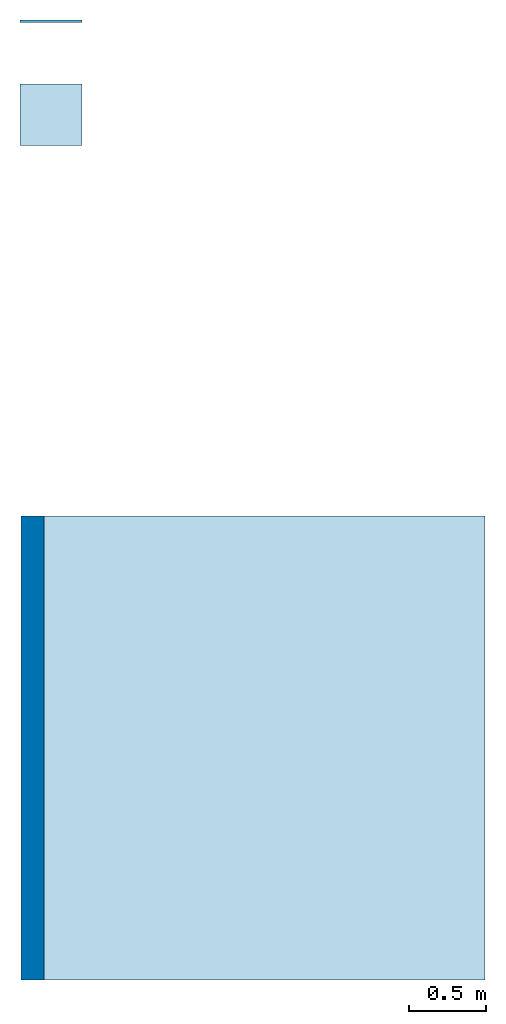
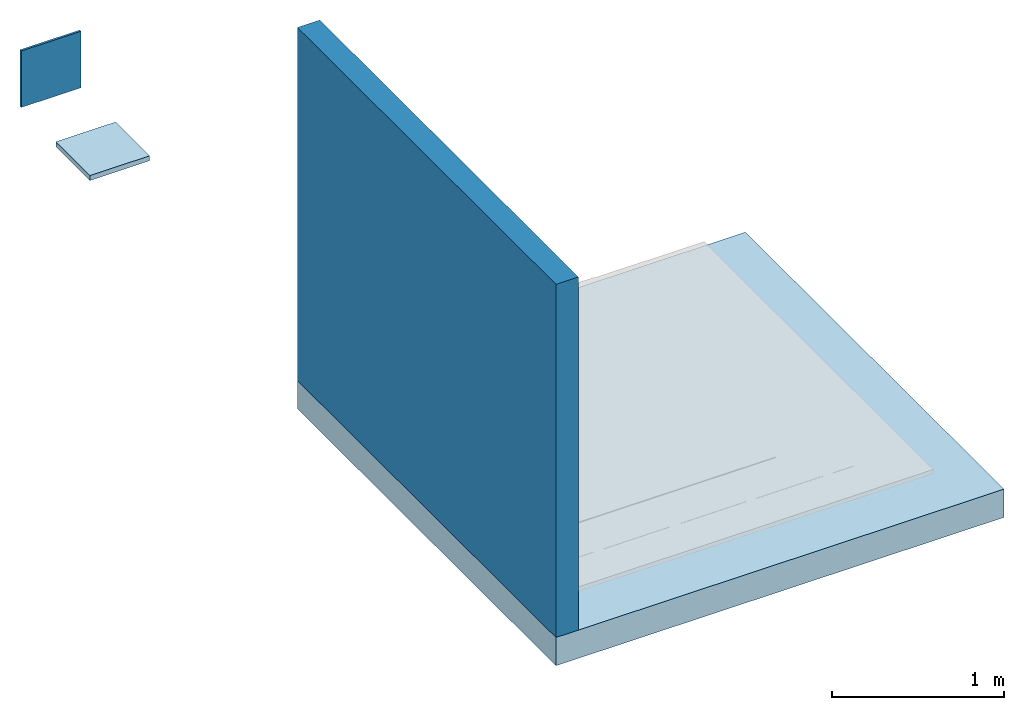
# One storey, part 1 of 2: 2 slabs, 2 walls.
"""IFC2X3 building model written with IfcOpenShell, lengths in metres."""

from ifc_helpers import new_model, entity, si_unit, converted_unit, derived_unit, direction, frame, frame_2d, origin, origin_2d_with_axis, place, context, subcontext, project, spatial, rectangle, extrude, material, layer, layer_set, layer_usage, type_object, element, save


model = new_model("IFC2X3")

# Units and contexts
model_context = context("Model", 3, precision=1e-05, world=origin(), true_north=direction((6.123031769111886e-17, 1.0)))
body_context = subcontext(model_context, "Body", "Model", "MODEL_VIEW")
ifc_project = project(units=[si_unit("LENGTHUNIT", "METRE"), si_unit("AREAUNIT", "SQUARE_METRE"), si_unit("VOLUMEUNIT", "CUBIC_METRE"), converted_unit("PLANEANGLEUNIT", "DEGREE", entity("IfcRatioMeasure", 0.017453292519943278), si_unit("PLANEANGLEUNIT", "RADIAN"), dimensions=[0, 0, 0, 0, 0, 0, 0]), si_unit("MASSUNIT", "GRAM", prefix="KILO"), derived_unit("MASSDENSITYUNIT", [(si_unit("MASSUNIT", "GRAM", prefix="KILO"), 1), (si_unit("LENGTHUNIT", "METRE"), -3)]), derived_unit("IONCONCENTRATIONUNIT", [(si_unit("MASSUNIT", "GRAM", prefix="KILO"), 1), (si_unit("LENGTHUNIT", "METRE"), -3)]), derived_unit("MOMENTOFINERTIAUNIT", [(si_unit("LENGTHUNIT", "METRE"), 4)]), si_unit("TIMEUNIT", "SECOND"), si_unit("FREQUENCYUNIT", "HERTZ"), si_unit("THERMODYNAMICTEMPERATUREUNIT", "DEGREE_CELSIUS"), derived_unit("THERMALTRANSMITTANCEUNIT", [(si_unit("MASSUNIT", "GRAM", prefix="KILO"), 1), (si_unit("THERMODYNAMICTEMPERATUREUNIT", "KELVIN"), -1), (si_unit("TIMEUNIT", "SECOND"), -3)]), derived_unit("THERMALCONDUCTANCEUNIT", [(si_unit("MASSUNIT", "GRAM", prefix="KILO"), 1), (si_unit("THERMODYNAMICTEMPERATUREUNIT", "KELVIN"), -1), (si_unit("TIMEUNIT", "SECOND"), -3), (si_unit("LENGTHUNIT", "METRE"), 1)]), derived_unit("VOLUMETRICFLOWRATEUNIT", [(si_unit("LENGTHUNIT", "METRE"), 3), (si_unit("TIMEUNIT", "SECOND"), -1)]), derived_unit("MASSFLOWRATEUNIT", [(si_unit("MASSUNIT", "GRAM", prefix="KILO"), 1), (si_unit("TIMEUNIT", "SECOND"), -1)]), derived_unit("ROTATIONALFREQUENCYUNIT", [(si_unit("TIMEUNIT", "SECOND"), -1)]), si_unit("ELECTRICCURRENTUNIT", "AMPERE"), si_unit("ELECTRICVOLTAGEUNIT", "VOLT"), si_unit("POWERUNIT", "WATT"), si_unit("FORCEUNIT", "NEWTON", prefix="KILO"), si_unit("ILLUMINANCEUNIT", "LUX"), si_unit("LUMINOUSFLUXUNIT", "LUMEN"), si_unit("LUMINOUSINTENSITYUNIT", "CANDELA"), derived_unit("USERDEFINED", [(si_unit("MASSUNIT", "GRAM", prefix="KILO"), -1), (si_unit("LENGTHUNIT", "METRE"), -2), (si_unit("TIMEUNIT", "SECOND"), 3), (si_unit("LUMINOUSFLUXUNIT", "LUMEN"), 1)]), derived_unit("USERDEFINED", [(si_unit("MASSUNIT", "GRAM", prefix="KILO"), 1), (si_unit("TIMEUNIT", "SECOND"), -3), (si_unit("LENGTHUNIT", "METRE"), 3), (si_unit("ELECTRICCURRENTUNIT", "AMPERE"), -2)]), derived_unit("SOUNDPOWERUNIT", [(si_unit("MASSUNIT", "GRAM", prefix="KILO"), 1), (si_unit("TIMEUNIT", "SECOND"), -3), (si_unit("LENGTHUNIT", "METRE"), 2)]), derived_unit("SOUNDPRESSUREUNIT", [(si_unit("MASSUNIT", "GRAM", prefix="KILO"), 1), (si_unit("LENGTHUNIT", "METRE"), -1), (si_unit("TIMEUNIT", "SECOND"), -2)]), derived_unit("LINEARVELOCITYUNIT", [(si_unit("LENGTHUNIT", "METRE"), 1), (si_unit("TIMEUNIT", "SECOND"), -1)]), si_unit("PRESSUREUNIT", "PASCAL"), derived_unit("USERDEFINED", [(si_unit("MASSUNIT", "GRAM", prefix="KILO"), 1), (si_unit("LENGTHUNIT", "METRE"), -2), (si_unit("TIMEUNIT", "SECOND"), -2)]), derived_unit("LINEARFORCEUNIT", [(si_unit("MASSUNIT", "GRAM", prefix="KILO"), 1), (si_unit("TIMEUNIT", "SECOND"), -2)]), derived_unit("PLANARFORCEUNIT", [(si_unit("MASSUNIT", "GRAM", prefix="KILO"), 1), (si_unit("LENGTHUNIT", "METRE"), -1), (si_unit("TIMEUNIT", "SECOND"), -2)]), derived_unit("SPECIFICHEATCAPACITYUNIT", [(si_unit("THERMODYNAMICTEMPERATUREUNIT", "KELVIN"), -1), (si_unit("LENGTHUNIT", "METRE"), 2), (si_unit("TIMEUNIT", "SECOND"), -2)]), derived_unit("HEATINGVALUEUNIT", [(si_unit("LENGTHUNIT", "METRE"), 2), (si_unit("TIMEUNIT", "SECOND"), -2)]), derived_unit("VAPORPERMEABILITYUNIT", [(si_unit("LENGTHUNIT", "METRE"), -1), (si_unit("TIMEUNIT", "SECOND"), 1)]), derived_unit("DYNAMICVISCOSITYUNIT", [(si_unit("MASSUNIT", "GRAM", prefix="KILO"), 1), (si_unit("TIMEUNIT", "SECOND"), -1), (si_unit("LENGTHUNIT", "METRE"), -1)]), derived_unit("THERMALEXPANSIONCOEFFICIENTUNIT", [(si_unit("THERMODYNAMICTEMPERATUREUNIT", "KELVIN"), -1)]), derived_unit("MODULUSOFELASTICITYUNIT", [(si_unit("MASSUNIT", "GRAM", prefix="KILO"), 1), (si_unit("LENGTHUNIT", "METRE"), -1), (si_unit("TIMEUNIT", "SECOND"), -2)]), derived_unit("ISOTHERMALMOISTURECAPACITYUNIT", [(si_unit("LENGTHUNIT", "METRE"), 3), (si_unit("MASSUNIT", "GRAM", prefix="KILO"), -1)]), derived_unit("MOISTUREDIFFUSIVITYUNIT", [(si_unit("TIMEUNIT", "SECOND"), -1), (si_unit("LENGTHUNIT", "METRE"), 2)])], contexts=[model_context])

# Site, building, storey
site_placement = place(None, origin())
site = spatial("IfcSite", under=ifc_project, at=site_placement, Name="Default", CompositionType="ELEMENT")
building_placement = place(site_placement, origin())
building = spatial("IfcBuilding", under=site, at=building_placement, CompositionType="ELEMENT")
storey_placement = place(building_placement, frame((0.0, 0.0, -0.0025237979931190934)))
storey = spatial("IfcBuildingStorey", under=building, at=storey_placement, Name="ARQ Térreo", CompositionType="ELEMENT", Elevation=-0.0025237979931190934)

# Slabs
ifc_material_1 = material(Name="#concreto")
ifc_layer_1 = layer(ifc_material_1, 0.2)
ifc_layer_set_1 = layer_set([ifc_layer_1], Name="Piso:Piso:LAJE CONCRETO")
ifc_layer_usage_1 = layer_usage(ifc_layer_set_1, "AXIS3", "POSITIVE", 0.0)
slab_type_1 = type_object("IfcSlabType", Name="Piso:Piso:LAJE CONCRETO", PredefinedType="FLOOR", material=ifc_layer_set_1)
slab_1_placement = place(storey_placement, origin())
element("IfcSlab", 1, at=slab_1_placement, inside=storey, type_object=slab_type_1, material=ifc_layer_usage_1, Name="Piso:Piso:LAJE CONCRETO", ObjectType="Piso:Piso:LAJE CONCRETO", PredefinedType="FLOOR", context=body_context, shape_type="SweptSolid", body=[
    extrude(rectangle(XDim=3.0000000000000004, YDim=3.0000000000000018, at=origin_2d_with_axis()), frame((0.9980295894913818, -1.354129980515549, 0.0), z_axis=(0.0, 0.0, -1.0), x_axis=(0.0, 1.0, 0.0)), (0.0, 0.0, 1.0), 0.2),
])
ifc_material_2 = material(Name="# Premium Ardosiado Poliéster")
ifc_layer_2 = layer(ifc_material_2, 0.003999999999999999)
ifc_material_3 = material(Name="#Primer Adeflex")
ifc_layer_3 = layer(ifc_material_3, 0.0009999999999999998)
ifc_material_4 = material(Name="#argamassa")
ifc_layer_4 = layer(ifc_material_4, 0.03)
ifc_layer_set_2 = layer_set([ifc_layer_2, ifc_layer_3, ifc_layer_4], Name="Piso:IMPH_PARP")
ifc_layer_usage_2 = layer_usage(ifc_layer_set_2, "AXIS3", "POSITIVE", 0.0)
slab_type_2 = type_object("IfcSlabType", Name="Piso:IMPH_PARP", PredefinedType="FLOOR", material=ifc_layer_set_2)
slab_2_placement = place(storey_placement, origin())
element("IfcSlab", 2, at=slab_2_placement, inside=storey, type_object=slab_type_2, material=ifc_layer_usage_2, Name="Piso:IMPH_PARP", ObjectType="Piso:IMPH_PARP", PredefinedType="FLOOR", context=body_context, shape_type="SweptSolid", body=[
    extrude(rectangle(XDim=0.3949999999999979, YDim=0.4, at=origin_2d_with_axis()), frame((-0.3084496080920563, 2.7394349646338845, 0.0), z_axis=(0.0, 0.0, -1.0), x_axis=(0.0, 1.0, 0.0)), (0.0, 0.0, 1.0), 0.034999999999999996),
])

# Walls
ifc_layer_5 = layer(ifc_material_1, 0.14999999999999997)
ifc_layer_set_3 = layer_set([ifc_layer_5], Name="Parede básica:Parede básica:Parede Concreto")
ifc_layer_usage_3 = layer_usage(ifc_layer_set_3, "AXIS2", "NEGATIVE", 0.07499999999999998)
wall_type_1 = type_object("IfcWallType", Name="Parede básica:Parede básica:Parede Concreto", PredefinedType="STANDARD", material=ifc_layer_set_3)
wall_1_placement = place(storey_placement, frame((-0.4269704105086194, 0.14587001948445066, 0.0), z_axis=(0.0, 0.0, 1.0), x_axis=(0.0, -1.0, 0.0)))
element("IfcWallStandardCase", 3, at=wall_1_placement, inside=storey, type_object=wall_type_1, material=ifc_layer_usage_3, Name="Parede básica:Parede Concreto", ObjectType="Parede básica:Parede Concreto", context=body_context, shape_type="SweptSolid", body=[
    extrude(rectangle(XDim=2.9999999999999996, YDim=0.15000000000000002, at=frame_2d((1.4999999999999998, 0.0), x_axis=(-1.0, 0.0))), origin(), (0.0, 0.0, 1.0), 2.4999999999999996),
])
ifc_layer_6 = layer(ifc_material_2, 0.003999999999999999)
ifc_layer_7 = layer(ifc_material_3, 0.0009999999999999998)
ifc_layer_8 = layer(ifc_material_4, 0.01)
ifc_layer_set_4 = layer_set([ifc_layer_6, ifc_layer_7, ifc_layer_8], Name="Parede básica:IMPV_PARP")
ifc_layer_usage_4 = layer_usage(ifc_layer_set_4, "AXIS2", "NEGATIVE", 0.007500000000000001)
wall_type_2 = type_object("IfcWallType", Name="Parede básica:IMPV_PARP", PredefinedType="STANDARD", material=ifc_layer_set_4)
wall_2_placement = place(storey_placement, frame((-0.10844960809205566, 3.3444349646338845, 0.0), z_axis=(0.0, 0.0, 1.0), x_axis=(-1.0, 0.0, 0.0)))
element("IfcWallStandardCase", 4, at=wall_2_placement, inside=storey, type_object=wall_type_2, material=ifc_layer_usage_4, Name="Parede básica:IMPV_T4PP", ObjectType="Parede básica:IMPV_T4PP", context=body_context, shape_type="SweptSolid", body=[
    extrude(rectangle(XDim=0.4, YDim=0.01499999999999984, at=frame_2d((0.2, 6.201636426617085e-17), x_axis=(-1.0, 0.0))), origin(), (0.0, 0.0, 1.0), 0.4),
])

save(model, "model.ifc")
